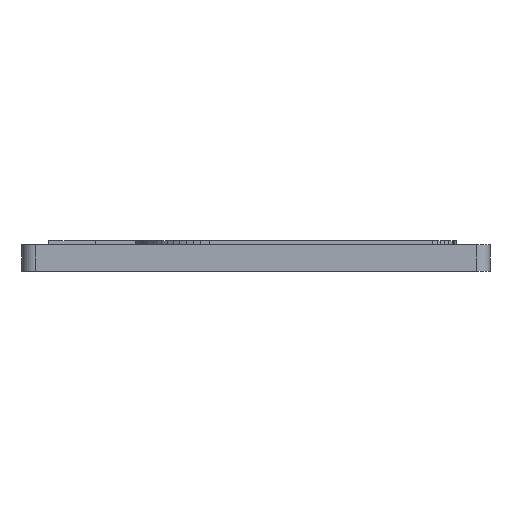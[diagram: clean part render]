
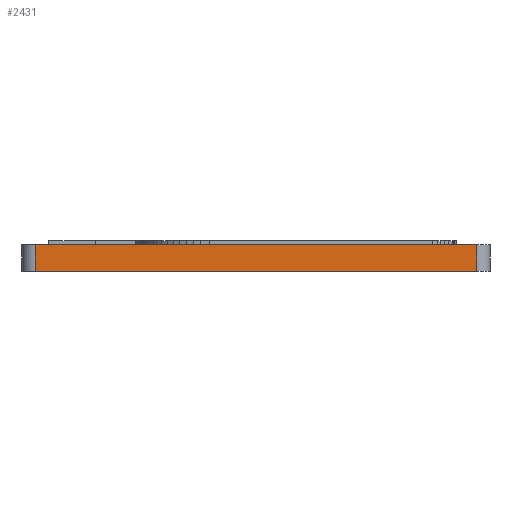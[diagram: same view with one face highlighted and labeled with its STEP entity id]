
A CAD part, left-side view. The second image highlights one B-rep face of the part: STEP entity #2431.
In plain terms, the highlighted planar face has unit normal (-1, 0, 0).
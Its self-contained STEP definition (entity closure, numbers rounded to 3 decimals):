
#66 = PLANE('',#67);
#67 = AXIS2_PLACEMENT_3D('',#68,#69,#70);
#68 = CARTESIAN_POINT('',(49.061,34.324,0.));
#69 = DIRECTION('',(-0.,-0.,-1.));
#70 = DIRECTION('',(-1.,0.,0.));
#122 = PLANE('',#123);
#123 = AXIS2_PLACEMENT_3D('',#124,#125,#126);
#124 = CARTESIAN_POINT('',(49.061,34.324,4.));
#125 = DIRECTION('',(-0.,-0.,-1.));
#126 = DIRECTION('',(-1.,0.,0.));
#148 = CYLINDRICAL_SURFACE('',#149,2.);
#149 = AXIS2_PLACEMENT_3D('',#150,#151,#152);
#150 = CARTESIAN_POINT('',(2.,2.,0.));
#151 = DIRECTION('',(0.,0.,1.));
#152 = DIRECTION('',(0.,-1.,0.));
#165 = VERTEX_POINT('',#166);
#166 = CARTESIAN_POINT('',(0.,2.,0.));
#188 = EDGE_CURVE('',#165,#189,#191,.T.);
#189 = VERTEX_POINT('',#190);
#190 = CARTESIAN_POINT('',(0.,68.,0.));
#191 = SURFACE_CURVE('',#192,(#196,#203),.PCURVE_S1.);
#192 = LINE('',#193,#194);
#193 = CARTESIAN_POINT('',(0.,0.,0.));
#194 = VECTOR('',#195,1.);
#195 = DIRECTION('',(0.,1.,0.));
#196 = PCURVE('',#66,#197);
#197 = DEFINITIONAL_REPRESENTATION('',(#198),#202);
#198 = LINE('',#199,#200);
#199 = CARTESIAN_POINT('',(49.061,-34.324));
#200 = VECTOR('',#201,1.);
#201 = DIRECTION('',(0.,1.));
#202 = ( GEOMETRIC_REPRESENTATION_CONTEXT(2) 
PARAMETRIC_REPRESENTATION_CONTEXT() REPRESENTATION_CONTEXT('2D SPACE',''
  ) );
#203 = PCURVE('',#204,#209);
#204 = PLANE('',#205);
#205 = AXIS2_PLACEMENT_3D('',#206,#207,#208);
#206 = CARTESIAN_POINT('',(0.,0.,0.));
#207 = DIRECTION('',(-1.,0.,0.));
#208 = DIRECTION('',(0.,1.,0.));
#209 = DEFINITIONAL_REPRESENTATION('',(#210),#214);
#210 = LINE('',#211,#212);
#211 = CARTESIAN_POINT('',(0.,0.));
#212 = VECTOR('',#213,1.);
#213 = DIRECTION('',(1.,0.));
#214 = ( GEOMETRIC_REPRESENTATION_CONTEXT(2) 
PARAMETRIC_REPRESENTATION_CONTEXT() REPRESENTATION_CONTEXT('2D SPACE',''
  ) );
#233 = CYLINDRICAL_SURFACE('',#234,2.);
#234 = AXIS2_PLACEMENT_3D('',#235,#236,#237);
#235 = CARTESIAN_POINT('',(2.,68.,0.));
#236 = DIRECTION('',(0.,0.,1.));
#237 = DIRECTION('',(-1.,0.,0.));
#471 = EDGE_CURVE('',#165,#472,#474,.T.);
#472 = VERTEX_POINT('',#473);
#473 = CARTESIAN_POINT('',(0.,2.,4.));
#474 = SURFACE_CURVE('',#475,(#479,#486),.PCURVE_S1.);
#475 = LINE('',#476,#477);
#476 = CARTESIAN_POINT('',(0.,2.,0.));
#477 = VECTOR('',#478,1.);
#478 = DIRECTION('',(0.,0.,1.));
#479 = PCURVE('',#148,#480);
#480 = DEFINITIONAL_REPRESENTATION('',(#481),#485);
#481 = LINE('',#482,#483);
#482 = CARTESIAN_POINT('',(-1.571,0.));
#483 = VECTOR('',#484,1.);
#484 = DIRECTION('',(-0.,1.));
#485 = ( GEOMETRIC_REPRESENTATION_CONTEXT(2) 
PARAMETRIC_REPRESENTATION_CONTEXT() REPRESENTATION_CONTEXT('2D SPACE',''
  ) );
#486 = PCURVE('',#204,#487);
#487 = DEFINITIONAL_REPRESENTATION('',(#488),#492);
#488 = LINE('',#489,#490);
#489 = CARTESIAN_POINT('',(2.,0.));
#490 = VECTOR('',#491,1.);
#491 = DIRECTION('',(0.,-1.));
#492 = ( GEOMETRIC_REPRESENTATION_CONTEXT(2) 
PARAMETRIC_REPRESENTATION_CONTEXT() REPRESENTATION_CONTEXT('2D SPACE',''
  ) );
#522 = EDGE_CURVE('',#472,#523,#525,.T.);
#523 = VERTEX_POINT('',#524);
#524 = CARTESIAN_POINT('',(0.,68.,4.));
#525 = SURFACE_CURVE('',#526,(#530,#537),.PCURVE_S1.);
#526 = LINE('',#527,#528);
#527 = CARTESIAN_POINT('',(0.,0.,4.));
#528 = VECTOR('',#529,1.);
#529 = DIRECTION('',(0.,1.,0.));
#530 = PCURVE('',#122,#531);
#531 = DEFINITIONAL_REPRESENTATION('',(#532),#536);
#532 = LINE('',#533,#534);
#533 = CARTESIAN_POINT('',(49.061,-34.324));
#534 = VECTOR('',#535,1.);
#535 = DIRECTION('',(0.,1.));
#536 = ( GEOMETRIC_REPRESENTATION_CONTEXT(2) 
PARAMETRIC_REPRESENTATION_CONTEXT() REPRESENTATION_CONTEXT('2D SPACE',''
  ) );
#537 = PCURVE('',#204,#538);
#538 = DEFINITIONAL_REPRESENTATION('',(#539),#543);
#539 = LINE('',#540,#541);
#540 = CARTESIAN_POINT('',(0.,-4.));
#541 = VECTOR('',#542,1.);
#542 = DIRECTION('',(1.,0.));
#543 = ( GEOMETRIC_REPRESENTATION_CONTEXT(2) 
PARAMETRIC_REPRESENTATION_CONTEXT() REPRESENTATION_CONTEXT('2D SPACE',''
  ) );
#2431 = ADVANCED_FACE('',(#2432),#204,.T.);
#2432 = FACE_BOUND('',#2433,.T.);
#2433 = EDGE_LOOP('',(#2434,#2435,#2436,#2437));
#2434 = ORIENTED_EDGE('',*,*,#188,.F.);
#2435 = ORIENTED_EDGE('',*,*,#471,.T.);
#2436 = ORIENTED_EDGE('',*,*,#522,.T.);
#2437 = ORIENTED_EDGE('',*,*,#2438,.F.);
#2438 = EDGE_CURVE('',#189,#523,#2439,.T.);
#2439 = SURFACE_CURVE('',#2440,(#2444,#2451),.PCURVE_S1.);
#2440 = LINE('',#2441,#2442);
#2441 = CARTESIAN_POINT('',(0.,68.,0.));
#2442 = VECTOR('',#2443,1.);
#2443 = DIRECTION('',(0.,0.,1.));
#2444 = PCURVE('',#204,#2445);
#2445 = DEFINITIONAL_REPRESENTATION('',(#2446),#2450);
#2446 = LINE('',#2447,#2448);
#2447 = CARTESIAN_POINT('',(68.,0.));
#2448 = VECTOR('',#2449,1.);
#2449 = DIRECTION('',(0.,-1.));
#2450 = ( GEOMETRIC_REPRESENTATION_CONTEXT(2) 
PARAMETRIC_REPRESENTATION_CONTEXT() REPRESENTATION_CONTEXT('2D SPACE',''
  ) );
#2451 = PCURVE('',#233,#2452);
#2452 = DEFINITIONAL_REPRESENTATION('',(#2453),#2457);
#2453 = LINE('',#2454,#2455);
#2454 = CARTESIAN_POINT('',(-0.,0.));
#2455 = VECTOR('',#2456,1.);
#2456 = DIRECTION('',(-0.,1.));
#2457 = ( GEOMETRIC_REPRESENTATION_CONTEXT(2) 
PARAMETRIC_REPRESENTATION_CONTEXT() REPRESENTATION_CONTEXT('2D SPACE',''
  ) );
